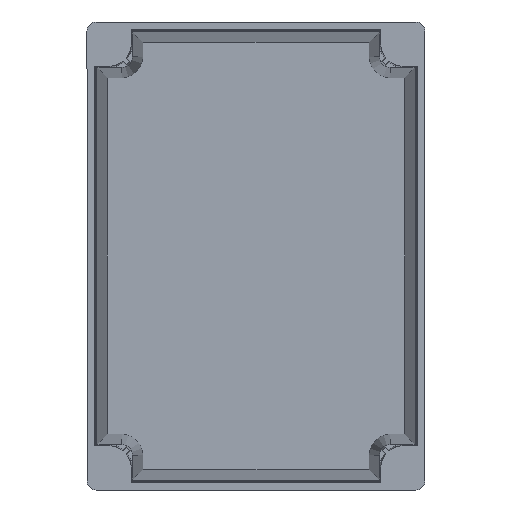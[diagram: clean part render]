
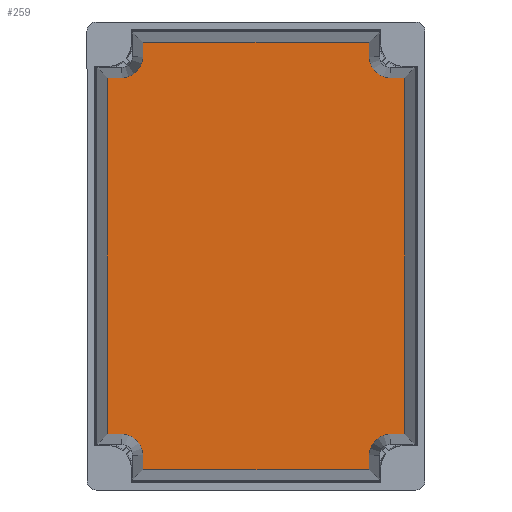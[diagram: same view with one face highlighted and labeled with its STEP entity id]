
A CAD part, front view. The second image highlights one B-rep face of the part: STEP entity #259.
In plain terms, the highlighted planar face has unit normal (0, -1, 0).
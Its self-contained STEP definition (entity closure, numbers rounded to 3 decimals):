
#170 = VERTEX_POINT ( 'NONE', #2494 ) ;
#171 = ORIENTED_EDGE ( 'NONE', *, *, #295, .T. ) ;
#251 = ORIENTED_EDGE ( 'NONE', *, *, #252, .T. ) ;
#252 = EDGE_CURVE ( 'NONE', #273, #274, #2674, .T. ) ;
#253 = ORIENTED_EDGE ( 'NONE', *, *, #254, .T. ) ;
#254 = EDGE_CURVE ( 'NONE', #274, #255, #2670, .T. ) ;
#255 = VERTEX_POINT ( 'NONE', #2666 ) ;
#256 = ORIENTED_EDGE ( 'NONE', *, *, #257, .T. ) ;
#257 = EDGE_CURVE ( 'NONE', #255, #170, #2701, .T. ) ;
#259 = ADVANCED_FACE ( 'NONE', ( #2697 ), #2696, .F. ) ;
#260 = EDGE_LOOP ( 'NONE', ( #261, #265, #268, #271, #251, #253, #256, #171, #297, #300, #303, #306, #309, #312, #315, #318 ) ) ;
#261 = ORIENTED_EDGE ( 'NONE', *, *, #262, .T. ) ;
#262 = EDGE_CURVE ( 'NONE', #263, #264, #2691, .T. ) ;
#263 = VERTEX_POINT ( 'NONE', #2686 ) ;
#264 = VERTEX_POINT ( 'NONE', #2685 ) ;
#265 = ORIENTED_EDGE ( 'NONE', *, *, #266, .T. ) ;
#266 = EDGE_CURVE ( 'NONE', #264, #267, #2749, .T. ) ;
#267 = VERTEX_POINT ( 'NONE', #2745 ) ;
#268 = ORIENTED_EDGE ( 'NONE', *, *, #269, .T. ) ;
#269 = EDGE_CURVE ( 'NONE', #267, #270, #2744, .T. ) ;
#270 = VERTEX_POINT ( 'NONE', #2740 ) ;
#271 = ORIENTED_EDGE ( 'NONE', *, *, #272, .T. ) ;
#272 = EDGE_CURVE ( 'NONE', #270, #273, #2739, .T. ) ;
#273 = VERTEX_POINT ( 'NONE', #2735 ) ;
#274 = VERTEX_POINT ( 'NONE', #2734 ) ;
#295 = EDGE_CURVE ( 'NONE', #170, #296, #2813, .T. ) ;
#296 = VERTEX_POINT ( 'NONE', #2809 ) ;
#297 = ORIENTED_EDGE ( 'NONE', *, *, #298, .T. ) ;
#298 = EDGE_CURVE ( 'NONE', #296, #299, #2808, .T. ) ;
#299 = VERTEX_POINT ( 'NONE', #2803 ) ;
#300 = ORIENTED_EDGE ( 'NONE', *, *, #301, .T. ) ;
#301 = EDGE_CURVE ( 'NONE', #299, #302, #2802, .T. ) ;
#302 = VERTEX_POINT ( 'NONE', #2798 ) ;
#303 = ORIENTED_EDGE ( 'NONE', *, *, #304, .T. ) ;
#304 = EDGE_CURVE ( 'NONE', #302, #305, #2797, .T. ) ;
#305 = VERTEX_POINT ( 'NONE', #2793 ) ;
#306 = ORIENTED_EDGE ( 'NONE', *, *, #307, .T. ) ;
#307 = EDGE_CURVE ( 'NONE', #305, #308, #2792, .T. ) ;
#308 = VERTEX_POINT ( 'NONE', #2788 ) ;
#309 = ORIENTED_EDGE ( 'NONE', *, *, #310, .T. ) ;
#310 = EDGE_CURVE ( 'NONE', #308, #311, #2787, .T. ) ;
#311 = VERTEX_POINT ( 'NONE', #2760 ) ;
#312 = ORIENTED_EDGE ( 'NONE', *, *, #313, .T. ) ;
#313 = EDGE_CURVE ( 'NONE', #311, #314, #2759, .T. ) ;
#314 = VERTEX_POINT ( 'NONE', #2755 ) ;
#315 = ORIENTED_EDGE ( 'NONE', *, *, #316, .T. ) ;
#316 = EDGE_CURVE ( 'NONE', #314, #317, #2754, .T. ) ;
#317 = VERTEX_POINT ( 'NONE', #2750 ) ;
#318 = ORIENTED_EDGE ( 'NONE', *, *, #319, .T. ) ;
#319 = EDGE_CURVE ( 'NONE', #317, #263, #2711, .T. ) ;
#2494 = CARTESIAN_POINT ( 'NONE',  ( -57.238, 99.3, -68.588 ) ) ;
#2666 = CARTESIAN_POINT ( 'NONE',  ( -57.238, 99.3, 68.588 ) ) ;
#2667 = DIRECTION ( 'NONE',  ( -1., 0., 0. ) ) ;
#2668 = VECTOR ( 'NONE', #2667, 1000. ) ;
#2669 = CARTESIAN_POINT ( 'NONE',  ( -61.179, 99.3, 68.588 ) ) ;
#2670 = LINE ( 'NONE', #2669, #2668 ) ;
#2671 = DIRECTION ( 'NONE',  ( 0., 0., 1. ) ) ;
#2672 = DIRECTION ( 'NONE',  ( 0., 1., 0. ) ) ;
#2673 = AXIS2_PLACEMENT_3D ( 'NONE', #2716, #2672, #2671 ) ;
#2674 = CIRCLE ( 'NONE', #2673, 8.046 ) ;
#2685 = CARTESIAN_POINT ( 'NONE',  ( 43.588, 99.3, 76.634 ) ) ;
#2686 = CARTESIAN_POINT ( 'NONE',  ( 51.634, 99.3, 68.588 ) ) ;
#2687 = DIRECTION ( 'NONE',  ( 0., 0., 1. ) ) ;
#2688 = DIRECTION ( 'NONE',  ( 0., 1., 0. ) ) ;
#2689 = CARTESIAN_POINT ( 'NONE',  ( 51.634, 99.3, 76.634 ) ) ;
#2690 = AXIS2_PLACEMENT_3D ( 'NONE', #2689, #2688, #2687 ) ;
#2691 = CIRCLE ( 'NONE', #2690, 8.046 ) ;
#2692 = DIRECTION ( 'NONE',  ( 0., 0., 1. ) ) ;
#2693 = DIRECTION ( 'NONE',  ( 0., 1., 0. ) ) ;
#2694 = CARTESIAN_POINT ( 'NONE',  ( -56.75, 99.3, -81.75 ) ) ;
#2695 = AXIS2_PLACEMENT_3D ( 'NONE', #2694, #2693, #2692 ) ;
#2696 = PLANE ( 'NONE',  #2695 ) ;
#2697 = FACE_OUTER_BOUND ( 'NONE', #260, .T. ) ;
#2698 = DIRECTION ( 'NONE',  ( 0., 0., -1. ) ) ;
#2699 = VECTOR ( 'NONE', #2698, 1000. ) ;
#2700 = CARTESIAN_POINT ( 'NONE',  ( -57.238, 99.3, -72.529 ) ) ;
#2701 = LINE ( 'NONE', #2700, #2699 ) ;
#2708 = DIRECTION ( 'NONE',  ( -1., 0., 0. ) ) ;
#2709 = VECTOR ( 'NONE', #2708, 1000. ) ;
#2710 = CARTESIAN_POINT ( 'NONE',  ( 61.179, 99.3, 68.588 ) ) ;
#2711 = LINE ( 'NONE', #2710, #2709 ) ;
#2716 = CARTESIAN_POINT ( 'NONE',  ( -51.634, 99.3, 76.634 ) ) ;
#2734 = CARTESIAN_POINT ( 'NONE',  ( -51.634, 99.3, 68.588 ) ) ;
#2735 = CARTESIAN_POINT ( 'NONE',  ( -43.588, 99.3, 76.634 ) ) ;
#2736 = DIRECTION ( 'NONE',  ( 0., 0., -1. ) ) ;
#2737 = VECTOR ( 'NONE', #2736, 1000. ) ;
#2738 = CARTESIAN_POINT ( 'NONE',  ( -43.588, 99.3, 76.634 ) ) ;
#2739 = LINE ( 'NONE', #2738, #2737 ) ;
#2740 = CARTESIAN_POINT ( 'NONE',  ( -43.588, 99.3, 82.238 ) ) ;
#2741 = DIRECTION ( 'NONE',  ( -1., 0., 0. ) ) ;
#2742 = VECTOR ( 'NONE', #2741, 1000. ) ;
#2743 = CARTESIAN_POINT ( 'NONE',  ( 47.529, 99.3, 82.238 ) ) ;
#2744 = LINE ( 'NONE', #2743, #2742 ) ;
#2745 = CARTESIAN_POINT ( 'NONE',  ( 43.588, 99.3, 82.238 ) ) ;
#2746 = DIRECTION ( 'NONE',  ( 0., 0., 1. ) ) ;
#2747 = VECTOR ( 'NONE', #2746, 1000. ) ;
#2748 = CARTESIAN_POINT ( 'NONE',  ( 43.588, 99.3, 76.634 ) ) ;
#2749 = LINE ( 'NONE', #2748, #2747 ) ;
#2750 = CARTESIAN_POINT ( 'NONE',  ( 57.238, 99.3, 68.588 ) ) ;
#2751 = DIRECTION ( 'NONE',  ( 0., 0., 1. ) ) ;
#2752 = VECTOR ( 'NONE', #2751, 1000. ) ;
#2753 = CARTESIAN_POINT ( 'NONE',  ( 57.238, 99.3, -72.529 ) ) ;
#2754 = LINE ( 'NONE', #2753, #2752 ) ;
#2755 = CARTESIAN_POINT ( 'NONE',  ( 57.238, 99.3, -68.588 ) ) ;
#2756 = DIRECTION ( 'NONE',  ( 1., 0., 0. ) ) ;
#2757 = VECTOR ( 'NONE', #2756, 1000. ) ;
#2758 = CARTESIAN_POINT ( 'NONE',  ( 61.179, 99.3, -68.588 ) ) ;
#2759 = LINE ( 'NONE', #2758, #2757 ) ;
#2760 = CARTESIAN_POINT ( 'NONE',  ( 51.634, 99.3, -68.588 ) ) ;
#2761 = DIRECTION ( 'NONE',  ( 0., 0., 1. ) ) ;
#2762 = DIRECTION ( 'NONE',  ( 0., 1., 0. ) ) ;
#2763 = CARTESIAN_POINT ( 'NONE',  ( 51.634, 99.3, -76.634 ) ) ;
#2764 = AXIS2_PLACEMENT_3D ( 'NONE', #2763, #2762, #2761 ) ;
#2787 = CIRCLE ( 'NONE', #2764, 8.046 ) ;
#2788 = CARTESIAN_POINT ( 'NONE',  ( 43.588, 99.3, -76.634 ) ) ;
#2789 = DIRECTION ( 'NONE',  ( 0., 0., 1. ) ) ;
#2790 = VECTOR ( 'NONE', #2789, 1000. ) ;
#2791 = CARTESIAN_POINT ( 'NONE',  ( 43.588, 99.3, -76.634 ) ) ;
#2792 = LINE ( 'NONE', #2791, #2790 ) ;
#2793 = CARTESIAN_POINT ( 'NONE',  ( 43.588, 99.3, -82.238 ) ) ;
#2794 = DIRECTION ( 'NONE',  ( 1., 0., 0. ) ) ;
#2795 = VECTOR ( 'NONE', #2794, 1000. ) ;
#2796 = CARTESIAN_POINT ( 'NONE',  ( 47.529, 99.3, -82.238 ) ) ;
#2797 = LINE ( 'NONE', #2796, #2795 ) ;
#2798 = CARTESIAN_POINT ( 'NONE',  ( -43.588, 99.3, -82.238 ) ) ;
#2799 = DIRECTION ( 'NONE',  ( 0., 0., -1. ) ) ;
#2800 = VECTOR ( 'NONE', #2799, 1000. ) ;
#2801 = CARTESIAN_POINT ( 'NONE',  ( -43.588, 99.3, -76.634 ) ) ;
#2802 = LINE ( 'NONE', #2801, #2800 ) ;
#2803 = CARTESIAN_POINT ( 'NONE',  ( -43.588, 99.3, -76.634 ) ) ;
#2804 = DIRECTION ( 'NONE',  ( 0., 0., 1. ) ) ;
#2805 = DIRECTION ( 'NONE',  ( 0., 1., 0. ) ) ;
#2806 = CARTESIAN_POINT ( 'NONE',  ( -51.634, 99.3, -76.634 ) ) ;
#2807 = AXIS2_PLACEMENT_3D ( 'NONE', #2806, #2805, #2804 ) ;
#2808 = CIRCLE ( 'NONE', #2807, 8.046 ) ;
#2809 = CARTESIAN_POINT ( 'NONE',  ( -51.634, 99.3, -68.588 ) ) ;
#2810 = DIRECTION ( 'NONE',  ( 1., 0., 0. ) ) ;
#2811 = VECTOR ( 'NONE', #2810, 1000. ) ;
#2812 = CARTESIAN_POINT ( 'NONE',  ( -61.179, 99.3, -68.588 ) ) ;
#2813 = LINE ( 'NONE', #2812, #2811 ) ;
